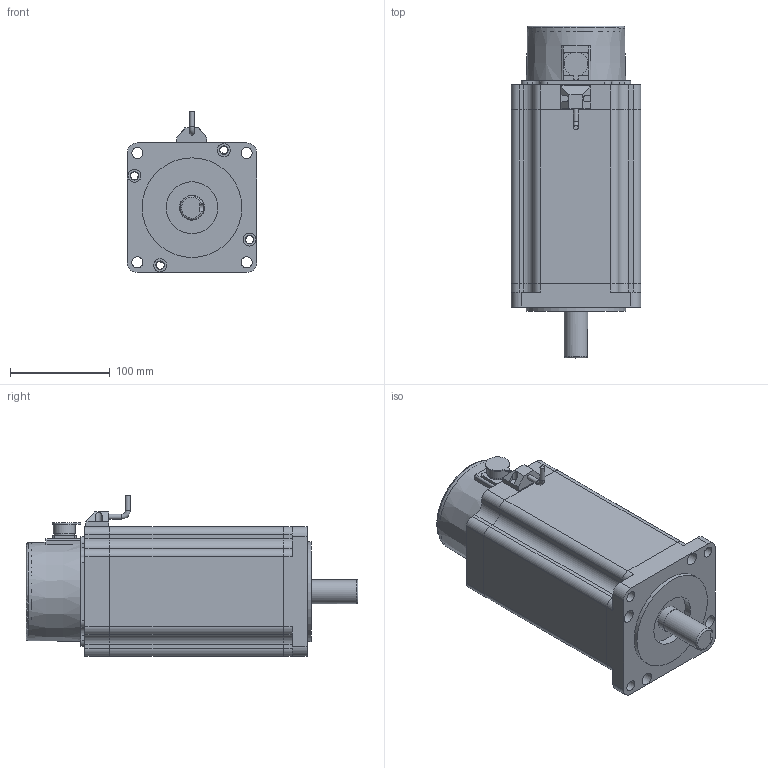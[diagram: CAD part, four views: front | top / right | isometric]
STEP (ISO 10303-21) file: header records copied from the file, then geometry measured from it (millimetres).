
FILE_DESCRIPTION(/* description */ (''),/* implementation_level */ '2;1');
FILE_NAME(/* name */ '130BYG350C.stp',/* time_stamp */ '2024-12-18T14:27:32+08:00',/* author */ (''),/* organization */ (''),/* preprocessor_version */ 'ST-DEVELOPER v18.1',/* originating_system */ 'SIEMENS PLM Software NX 2000',/* authorisation */ '');
FILE_SCHEMA (('AUTOMOTIVE_DESIGN { 1 0 10303 214 3 1 1 1 }'));
Length unit declared in the file: millimetre
Products named in the file (1): 92503CB85CA0kr19
Bounding box: 130 x 333 x 161.44 mm (x, y, z)
Volume: 3381297.2 mm3; surface area: 316103.8 mm2
Topology: 9 solids, 9 shells, 414 faces, 1173 edges, 789 vertices
Faces by surface type: plane 301, cylinder 107, torus 4, cone 2
Full cylindrical faces by diameter (mm): 3 x4, 4.8 x2, 6.5 x4, 7 x1, 8 x4, 8.5 x12, 11 x4, 13 x4, 16.5 x1, 20.196 x2, 22.032 x1, 24 x1, 24.7 x1, 25 x1, 52 x1, 100 x1
Entity records: 13497 total; most frequent: CARTESIAN_POINT 2571, ORIENTED_EDGE 2176, DIRECTION 2124, EDGE_CURVE 1088, LINE 862, VECTOR 862, VERTEX_POINT 754, EDGE_LOOP 632
